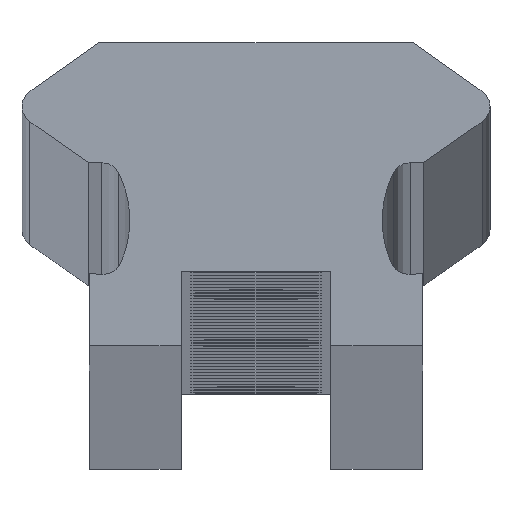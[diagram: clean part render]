
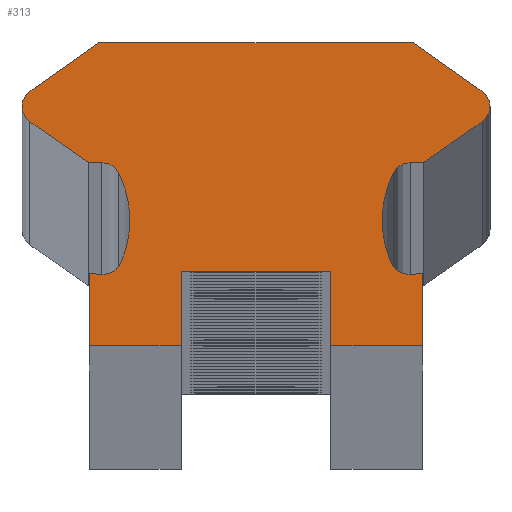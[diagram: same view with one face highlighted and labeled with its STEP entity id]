
A CAD part, top view. The second image highlights one B-rep face of the part: STEP entity #313.
In plain terms, the highlighted planar face has unit normal (0, 0, 1).
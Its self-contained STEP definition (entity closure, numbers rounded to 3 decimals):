
#313=ADVANCED_FACE('',(#918),#919,.T.);
#918=FACE_OUTER_BOUND('',#1524,.T.);
#919=PLANE('',#1525);
#1524=EDGE_LOOP('',(#3362,#3363,#3364,#3365,#3366,#3367,#3368,#3369,#3370,#3371,#3372,#3373,#3374,#3375,#3376,#3377,#3378,#3379,#3380,#3381,#3382,#3383,#3384,#3385,#3386,#3387,#3388,#3389));
#1525=AXIS2_PLACEMENT_3D('',#3390,#3391,#3392);
#3362=ORIENTED_EDGE('',*,*,#3944,.F.);
#3363=ORIENTED_EDGE('',*,*,#4010,.F.);
#3364=ORIENTED_EDGE('',*,*,#4007,.F.);
#3365=ORIENTED_EDGE('',*,*,#4004,.F.);
#3366=ORIENTED_EDGE('',*,*,#3427,.F.);
#3367=ORIENTED_EDGE('',*,*,#4002,.F.);
#3368=ORIENTED_EDGE('',*,*,#3999,.F.);
#3369=ORIENTED_EDGE('',*,*,#3996,.F.);
#3370=ORIENTED_EDGE('',*,*,#3993,.F.);
#3371=ORIENTED_EDGE('',*,*,#3990,.F.);
#3372=ORIENTED_EDGE('',*,*,#3987,.F.);
#3373=ORIENTED_EDGE('',*,*,#3984,.F.);
#3374=ORIENTED_EDGE('',*,*,#3981,.F.);
#3375=ORIENTED_EDGE('',*,*,#3978,.F.);
#3376=ORIENTED_EDGE('',*,*,#3975,.F.);
#3377=ORIENTED_EDGE('',*,*,#3972,.F.);
#3378=ORIENTED_EDGE('',*,*,#3429,.F.);
#3379=ORIENTED_EDGE('',*,*,#3971,.F.);
#3380=ORIENTED_EDGE('',*,*,#3967,.F.);
#3381=ORIENTED_EDGE('',*,*,#3964,.F.);
#3382=ORIENTED_EDGE('',*,*,#3961,.F.);
#3383=ORIENTED_EDGE('',*,*,#3958,.F.);
#3384=ORIENTED_EDGE('',*,*,#3435,.F.);
#3385=ORIENTED_EDGE('',*,*,#3956,.F.);
#3386=ORIENTED_EDGE('',*,*,#3953,.F.);
#3387=ORIENTED_EDGE('',*,*,#3950,.F.);
#3388=ORIENTED_EDGE('',*,*,#3437,.F.);
#3389=ORIENTED_EDGE('',*,*,#3949,.F.);
#3390=CARTESIAN_POINT('',(0.,4.079,1886.0));
#3391=DIRECTION('',(0.0,0.0,1.0));
#3392=DIRECTION('',(1.0,0.0,0.0));
#3427=EDGE_CURVE('',#4017,#4013,#4019,.T.);
#3429=EDGE_CURVE('',#4020,#4023,#4024,.T.);
#3435=EDGE_CURVE('',#4033,#4029,#4035,.T.);
#3437=EDGE_CURVE('',#4036,#4039,#4040,.T.);
#3944=EDGE_CURVE('',#4884,#4885,#4886,.T.);
#3949=EDGE_CURVE('',#4885,#4036,#4893,.T.);
#3950=EDGE_CURVE('',#4039,#4894,#4895,.T.);
#3953=EDGE_CURVE('',#4894,#4899,#4900,.T.);
#3956=EDGE_CURVE('',#4899,#4033,#4904,.T.);
#3958=EDGE_CURVE('',#4029,#4906,#4907,.T.);
#3961=EDGE_CURVE('',#4906,#4911,#4912,.T.);
#3964=EDGE_CURVE('',#4911,#4916,#4917,.T.);
#3967=EDGE_CURVE('',#4916,#4921,#4922,.T.);
#3971=EDGE_CURVE('',#4921,#4020,#4927,.T.);
#3972=EDGE_CURVE('',#4023,#4928,#4929,.T.);
#3975=EDGE_CURVE('',#4928,#4933,#4934,.T.);
#3978=EDGE_CURVE('',#4933,#4938,#4939,.T.);
#3981=EDGE_CURVE('',#4938,#4943,#4944,.T.);
#3984=EDGE_CURVE('',#4943,#4948,#4949,.T.);
#3987=EDGE_CURVE('',#4948,#4953,#4954,.T.);
#3990=EDGE_CURVE('',#4953,#4958,#4959,.T.);
#3993=EDGE_CURVE('',#4958,#4963,#4964,.T.);
#3996=EDGE_CURVE('',#4963,#4968,#4969,.T.);
#3999=EDGE_CURVE('',#4968,#4973,#4974,.T.);
#4002=EDGE_CURVE('',#4973,#4017,#4978,.T.);
#4004=EDGE_CURVE('',#4013,#4980,#4981,.T.);
#4007=EDGE_CURVE('',#4980,#4985,#4986,.T.);
#4010=EDGE_CURVE('',#4985,#4884,#4990,.T.);
#4013=VERTEX_POINT('',#4993);
#4017=VERTEX_POINT('',#4998);
#4019=CIRCLE('',#5001,2.801);
#4020=VERTEX_POINT('',#5002);
#4023=VERTEX_POINT('',#5006);
#4024=CIRCLE('',#5007,2.801);
#4029=VERTEX_POINT('',#5013);
#4033=VERTEX_POINT('',#5018);
#4035=CIRCLE('',#5021,0.5);
#4036=VERTEX_POINT('',#5022);
#4039=VERTEX_POINT('',#5026);
#4040=CIRCLE('',#5027,0.5);
#4884=VERTEX_POINT('',#6040);
#4885=VERTEX_POINT('',#6041);
#4886=LINE('',#6042,#6043);
#4893=CIRCLE('',#6053,0.5);
#4894=VERTEX_POINT('',#6054);
#4895=LINE('',#6055,#6056);
#4899=VERTEX_POINT('',#6062);
#4900=LINE('',#6063,#6064);
#4904=LINE('',#6070,#6071);
#4906=VERTEX_POINT('',#6074);
#4907=CIRCLE('',#6075,0.5);
#4911=VERTEX_POINT('',#6080);
#4912=LINE('',#6081,#6082);
#4916=VERTEX_POINT('',#6088);
#4917=LINE('',#6089,#6090);
#4921=VERTEX_POINT('',#6096);
#4922=CIRCLE('',#6097,0.5);
#4927=CIRCLE('',#6103,2.801);
#4928=VERTEX_POINT('',#6104);
#4929=CIRCLE('',#6105,0.5);
#4933=VERTEX_POINT('',#6110);
#4934=LINE('',#6111,#6112);
#4938=VERTEX_POINT('',#6118);
#4939=LINE('',#6119,#6120);
#4943=VERTEX_POINT('',#6126);
#4944=LINE('',#6127,#6128);
#4948=VERTEX_POINT('',#6134);
#4949=LINE('',#6135,#6136);
#4953=VERTEX_POINT('',#6142);
#4954=LINE('',#6143,#6144);
#4958=VERTEX_POINT('',#6150);
#4959=LINE('',#6151,#6152);
#4963=VERTEX_POINT('',#6158);
#4964=LINE('',#6159,#6160);
#4968=VERTEX_POINT('',#6166);
#4969=LINE('',#6167,#6168);
#4973=VERTEX_POINT('',#6174);
#4974=LINE('',#6175,#6176);
#4978=CIRCLE('',#6182,0.5);
#4980=VERTEX_POINT('',#6184);
#4981=CIRCLE('',#6185,2.801);
#4985=VERTEX_POINT('',#6190);
#4986=CIRCLE('',#6191,0.5);
#4990=LINE('',#6196,#6197);
#4993=CARTESIAN_POINT('',(-3.37,3.359,1886.0));
#4998=CARTESIAN_POINT('',(-3.62,2.202,1886.0));
#5001=AXIS2_PLACEMENT_3D('',#6205,#6206,#6207);
#5002=CARTESIAN_POINT('',(3.37,3.359,1886.0));
#5006=CARTESIAN_POINT('',(3.62,2.202,1886.0));
#5007=AXIS2_PLACEMENT_3D('',#6209,#6210,#6211);
#5013=CARTESIAN_POINT('',(6.253,6.4,1886.0));
#5018=CARTESIAN_POINT('',(6.04,6.81,1886.0));
#5021=AXIS2_PLACEMENT_3D('',#6221,#6222,#6223);
#5022=CARTESIAN_POINT('',(-6.253,6.4,1886.0));
#5026=CARTESIAN_POINT('',(-6.04,6.81,1886.0));
#5027=AXIS2_PLACEMENT_3D('',#6225,#6226,#6227);
#6040=CARTESIAN_POINT('',(-4.483,4.9,1886.0));
#6041=CARTESIAN_POINT('',(-6.04,5.99,1886.0));
#6042=CARTESIAN_POINT('',(-6.04,5.99,1886.0));
#6043=VECTOR('',#7408,1.0);
#6053=AXIS2_PLACEMENT_3D('',#7415,#7416,#7417);
#6054=CARTESIAN_POINT('',(-4.197,8.1,1886.0));
#6055=CARTESIAN_POINT('',(-4.197,8.1,1886.0));
#6056=VECTOR('',#7418,1.0);
#6062=CARTESIAN_POINT('',(4.197,8.1,1886.0));
#6063=CARTESIAN_POINT('',(4.197,8.1,1886.0));
#6064=VECTOR('',#7421,1.0);
#6070=CARTESIAN_POINT('',(6.04,6.81,1886.0));
#6071=VECTOR('',#7424,1.0);
#6074=CARTESIAN_POINT('',(6.04,5.99,1886.0));
#6075=AXIS2_PLACEMENT_3D('',#7426,#7427,#7428);
#6080=CARTESIAN_POINT('',(4.483,4.9,1886.0));
#6081=CARTESIAN_POINT('',(4.483,4.9,1886.0));
#6082=VECTOR('',#7433,1.0);
#6088=CARTESIAN_POINT('',(4.119,4.9,1886.0));
#6089=CARTESIAN_POINT('',(4.119,4.9,1886.0));
#6090=VECTOR('',#7436,1.0);
#6096=CARTESIAN_POINT('',(3.673,4.626,1886.0));
#6097=AXIS2_PLACEMENT_3D('',#7439,#7440,#7441);
#6103=AXIS2_PLACEMENT_3D('',#7449,#7450,#7451);
#6104=CARTESIAN_POINT('',(4.119,1.91,1886.0));
#6105=AXIS2_PLACEMENT_3D('',#7452,#7453,#7454);
#6110=CARTESIAN_POINT('',(4.45,1.939,1886.0));
#6111=CARTESIAN_POINT('',(4.45,1.939,1886.0));
#6112=VECTOR('',#7459,1.0);
#6118=CARTESIAN_POINT('',(4.45,0.0,1886.0));
#6119=CARTESIAN_POINT('',(4.45,0.0,1886.0));
#6120=VECTOR('',#7462,1.0);
#6126=CARTESIAN_POINT('',(2.0,0.0,1886.0));
#6127=CARTESIAN_POINT('',(2.0,0.0,1886.0));
#6128=VECTOR('',#7465,1.0);
#6134=CARTESIAN_POINT('',(2.0,2.0,1886.0));
#6135=CARTESIAN_POINT('',(2.0,2.0,1886.0));
#6136=VECTOR('',#7468,1.0);
#6142=CARTESIAN_POINT('',(-2.0,2.0,1886.0));
#6143=CARTESIAN_POINT('',(-2.0,2.0,1886.0));
#6144=VECTOR('',#7471,1.0);
#6150=CARTESIAN_POINT('',(-2.0,0.0,1886.0));
#6151=CARTESIAN_POINT('',(-2.0,0.0,1886.0));
#6152=VECTOR('',#7474,1.0);
#6158=CARTESIAN_POINT('',(-4.45,0.0,1886.0));
#6159=CARTESIAN_POINT('',(-4.45,0.0,1886.0));
#6160=VECTOR('',#7477,1.0);
#6166=CARTESIAN_POINT('',(-4.45,1.939,1886.0));
#6167=CARTESIAN_POINT('',(-4.45,1.939,1886.0));
#6168=VECTOR('',#7480,1.0);
#6174=CARTESIAN_POINT('',(-4.119,1.91,1886.0));
#6175=CARTESIAN_POINT('',(-4.45,1.939,1886.0));
#6176=VECTOR('',#7483,1.0);
#6182=AXIS2_PLACEMENT_3D('',#7486,#7487,#7488);
#6184=CARTESIAN_POINT('',(-3.673,4.626,1886.0));
#6185=AXIS2_PLACEMENT_3D('',#7492,#7493,#7494);
#6190=CARTESIAN_POINT('',(-4.119,4.9,1886.0));
#6191=AXIS2_PLACEMENT_3D('',#7499,#7500,#7501);
#6196=CARTESIAN_POINT('',(-4.119,4.9,1886.0));
#6197=VECTOR('',#7506,1.0);
#6205=CARTESIAN_POINT('',(-6.17,3.359,1886.0));
#6206=DIRECTION('',(0.0,0.0,1.0));
#6207=DIRECTION('',(1.0,0.0,0.0));
#6209=CARTESIAN_POINT('',(6.17,3.359,1886.0));
#6210=DIRECTION('',(0.0,0.0,1.0));
#6211=DIRECTION('',(1.0,0.0,0.0));
#6221=CARTESIAN_POINT('',(5.753,6.4,1886.0));
#6222=DIRECTION('',(0.0,0.0,-1.0));
#6223=DIRECTION('',(1.0,0.0,0.0));
#6225=CARTESIAN_POINT('',(-5.753,6.4,1886.0));
#6226=DIRECTION('',(0.0,0.0,-1.0));
#6227=DIRECTION('',(1.0,0.0,0.0));
#7408=DIRECTION('',(-0.819,0.574,0.0));
#7415=CARTESIAN_POINT('',(-5.753,6.4,1886.0));
#7416=DIRECTION('',(0.0,0.0,-1.0));
#7417=DIRECTION('',(1.0,0.0,0.0));
#7418=DIRECTION('',(0.819,0.574,0.0));
#7421=DIRECTION('',(1.0,0.0,0.0));
#7424=DIRECTION('',(0.819,-0.574,0.0));
#7426=CARTESIAN_POINT('',(5.753,6.4,1886.0));
#7427=DIRECTION('',(0.0,0.0,-1.0));
#7428=DIRECTION('',(1.0,0.0,0.0));
#7433=DIRECTION('',(-0.819,-0.574,-0.0));
#7436=DIRECTION('',(-1.0,-0.0,-0.0));
#7439=CARTESIAN_POINT('',(4.119,4.4,1886.0));
#7440=DIRECTION('',(0.0,0.0,1.0));
#7441=DIRECTION('',(1.0,0.0,0.0));
#7449=CARTESIAN_POINT('',(6.17,3.359,1886.0));
#7450=DIRECTION('',(0.0,0.0,1.0));
#7451=DIRECTION('',(1.0,0.0,0.0));
#7452=CARTESIAN_POINT('',(4.075,2.409,1886.0));
#7453=DIRECTION('',(0.0,0.0,1.0));
#7454=DIRECTION('',(1.0,0.0,0.0));
#7459=DIRECTION('',(0.996,0.087,0.0));
#7462=DIRECTION('',(-0.0,-1.0,-0.0));
#7465=DIRECTION('',(-1.0,-0.0,-0.0));
#7468=DIRECTION('',(0.0,1.0,0.0));
#7471=DIRECTION('',(-1.0,-0.0,-0.0));
#7474=DIRECTION('',(-0.0,-1.0,-0.0));
#7477=DIRECTION('',(-1.0,-0.0,-0.0));
#7480=DIRECTION('',(0.0,1.0,0.0));
#7483=DIRECTION('',(0.996,-0.087,0.0));
#7486=CARTESIAN_POINT('',(-4.075,2.409,1886.0));
#7487=DIRECTION('',(0.0,0.0,1.0));
#7488=DIRECTION('',(1.0,0.0,0.0));
#7492=CARTESIAN_POINT('',(-6.17,3.359,1886.0));
#7493=DIRECTION('',(0.0,0.0,1.0));
#7494=DIRECTION('',(1.0,0.0,0.0));
#7499=CARTESIAN_POINT('',(-4.119,4.4,1886.0));
#7500=DIRECTION('',(0.0,0.0,1.0));
#7501=DIRECTION('',(1.0,0.0,0.0));
#7506=DIRECTION('',(-1.0,0.0,0.0));
